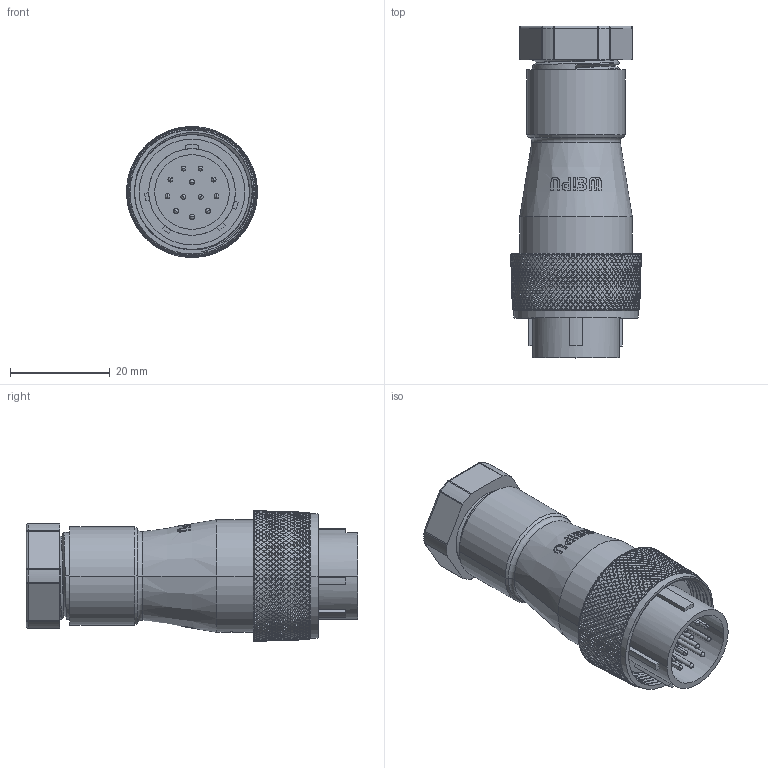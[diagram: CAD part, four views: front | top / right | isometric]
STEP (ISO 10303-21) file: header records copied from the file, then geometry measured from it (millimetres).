
FILE_DESCRIPTION((''),'2;1');
FILE_NAME('PRT0001','2016-10-12T',('Administrator'),(''),'PRO/ENGINEER BY PARAMETRIC TECHNOLOGY CORPORATION, 2015240','PRO/ENGINEER BY PARAMETRIC TECHNOLOGY CORPORATION, 2015240','');
FILE_SCHEMA(('CONFIG_CONTROL_DESIGN'));
Products named in the file (1): PRT0001
Bounding box: 26.28 x 66.7 x 26.28 mm (x, y, z)
Volume: 19737.5 mm3; surface area: 9600.5 mm2
Topology: 1 solids, 3 shells, 8052 faces, 16835 edges, 8796 vertices
Faces by surface type: bspline 6091, cone 1698, cylinder 94, plane 90, sphere 36, extrusion 31, torus 12
Entity records: 310437 total; most frequent: CARTESIAN_POINT 187993, ORIENTED_EDGE 33622, EDGE_CURVE 16811, B_SPLINE_CURVE_WITH_KNOTS 13041, VERTEX_POINT 8796, DIRECTION 8287, EDGE_LOOP 8085, FACE_OUTER_BOUND 8052
